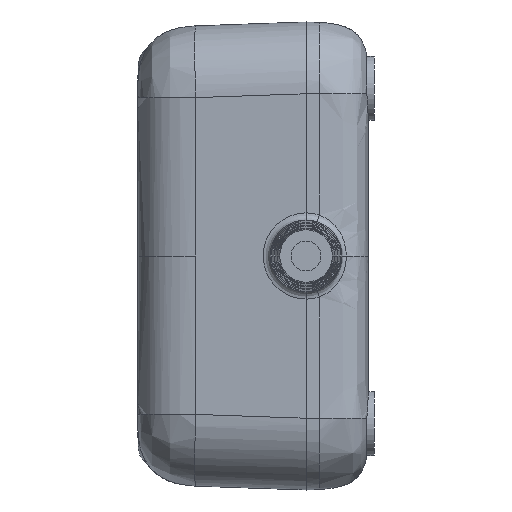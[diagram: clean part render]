
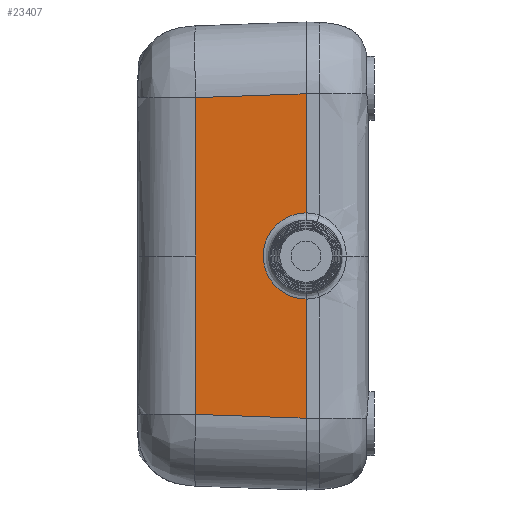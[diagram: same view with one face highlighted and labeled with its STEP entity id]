
A CAD part, left-side view. The second image highlights one B-rep face of the part: STEP entity #23407.
In plain terms, the highlighted planar face has unit normal (-0.999, 0.035, 0).
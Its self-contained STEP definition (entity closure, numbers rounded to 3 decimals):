
#193 = DIRECTION ( 'NONE',  ( -0.035, -0.999, 0. ) ) ;
#619 = CARTESIAN_POINT ( 'NONE',  ( -89., 0., 27.107 ) ) ;
#736 = CARTESIAN_POINT ( 'NONE',  ( -88.847, 4.37, 5.709 ) ) ;
#912 = CARTESIAN_POINT ( 'NONE',  ( -88.812, 5.396, -4.743 ) ) ;
#2734 = CARTESIAN_POINT ( 'NONE',  ( -88.783, 6.214, -3.595 ) ) ;
#2911 = CARTESIAN_POINT ( 'NONE',  ( -88.752, 7.112, -0.938 ) ) ;
#2977 = VECTOR ( 'NONE', #12018, 1000. ) ;
#3158 = VERTEX_POINT ( 'NONE', #6098 ) ;
#3617 = LINE ( 'NONE', #16855, #22817 ) ;
#3665 = AXIS2_PLACEMENT_3D ( 'NONE', #17551, #8969, #193 ) ;
#3838 = CARTESIAN_POINT ( 'NONE',  ( -88.356, 18.449, -26.463 ) ) ;
#4250 = EDGE_CURVE ( 'NONE', #7700, #9153, #3617, .T. ) ;
#4796 = LINE ( 'NONE', #619, #14696 ) ;
#5110 = ORIENTED_EDGE ( 'NONE', *, *, #18998, .T. ) ;
#5187 = CARTESIAN_POINT ( 'NONE',  ( -88.875, 3.59, 6.235 ) ) ;
#5272 = CARTESIAN_POINT ( 'NONE',  ( -88.847, 4.37, -5.709 ) ) ;
#6098 = CARTESIAN_POINT ( 'NONE',  ( -89., 0., -27.107 ) ) ;
#7103 = CARTESIAN_POINT ( 'NONE',  ( -88.984, 0.471, -7.197 ) ) ;
#7203 = CARTESIAN_POINT ( 'NONE',  ( -89., 0., -7.2 ) ) ;
#7294 = CARTESIAN_POINT ( 'NONE',  ( -88.835, 4.732, -5.41 ) ) ;
#7375 = CARTESIAN_POINT ( 'NONE',  ( -88.783, 6.214, 3.596 ) ) ;
#7475 = CARTESIAN_POINT ( 'NONE',  ( -88.752, 7.112, 0.938 ) ) ;
#7644 = DIRECTION ( 'NONE',  ( 0.035, 0.999, -0.035 ) ) ;
#7700 = VERTEX_POINT ( 'NONE', #19457 ) ;
#8366 = DIRECTION ( 'NONE',  ( 0., 0., -1. ) ) ;
#8428 = LINE ( 'NONE', #16042, #2977 ) ;
#8550 = DIRECTION ( 'NONE',  ( 0., 0., 1. ) ) ;
#8969 = DIRECTION ( 'NONE',  ( -0.999, 0.035, 0. ) ) ;
#9153 = VERTEX_POINT ( 'NONE', #3838 ) ;
#9487 = CARTESIAN_POINT ( 'NONE',  ( -88.919, 2.309, 6.822 ) ) ;
#9717 = CARTESIAN_POINT ( 'NONE',  ( -89., 0., -39.1 ) ) ;
#9868 = VERTEX_POINT ( 'NONE', #16195 ) ;
#10554 = EDGE_LOOP ( 'NONE', ( #17383, #22885, #20435, #5110, #22939, #21768, #18197 ) ) ;
#10977 = PLANE ( 'NONE',  #3665 ) ;
#11392 = CARTESIAN_POINT ( 'NONE',  ( -89., 0., 7.2 ) ) ;
#11423 = CARTESIAN_POINT ( 'NONE',  ( -88.356, 18.449, 26.463 ) ) ;
#11579 = CARTESIAN_POINT ( 'NONE',  ( -88.889, 3.176, -6.458 ) ) ;
#11678 = CARTESIAN_POINT ( 'NONE',  ( -88.935, 1.86, 6.96 ) ) ;
#11804 = DIRECTION ( 'NONE',  ( 0., 0., 1. ) ) ;
#12018 = DIRECTION ( 'NONE',  ( 0., 0., -1. ) ) ;
#12075 = EDGE_CURVE ( 'NONE', #9868, #17111, #4796, .T. ) ;
#12266 = VERTEX_POINT ( 'NONE', #24032 ) ;
#13581 = LINE ( 'NONE', #9717, #22872 ) ;
#13697 = CARTESIAN_POINT ( 'NONE',  ( -88.812, 5.395, 4.743 ) ) ;
#13726 = EDGE_CURVE ( 'NONE', #12266, #18792, #21964, .T. ) ;
#13784 = CARTESIAN_POINT ( 'NONE',  ( -88.758, 6.929, -1.861 ) ) ;
#13872 = CARTESIAN_POINT ( 'NONE',  ( -88.984, 0.472, 7.197 ) ) ;
#14678 = EDGE_CURVE ( 'NONE', #18792, #9868, #13581, .T. ) ;
#14696 = VECTOR ( 'NONE', #7644, 1000. ) ;
#14984 = DIRECTION ( 'NONE',  ( -0.035, -0.999, -0.035 ) ) ;
#15158 = VECTOR ( 'NONE', #14984, 1000. ) ;
#15794 = CARTESIAN_POINT ( 'NONE',  ( -88.758, 6.929, 1.861 ) ) ;
#15881 = CARTESIAN_POINT ( 'NONE',  ( -88.75, 7.158, 0.47 ) ) ;
#15978 = CARTESIAN_POINT ( 'NONE',  ( -88.801, 5.693, -4.379 ) ) ;
#16042 = CARTESIAN_POINT ( 'NONE',  ( -88.356, 18.449, -27.433 ) ) ;
#16166 = CARTESIAN_POINT ( 'NONE',  ( -88.875, 3.59, -6.235 ) ) ;
#16195 = CARTESIAN_POINT ( 'NONE',  ( -89., 0., 27.107 ) ) ;
#16855 = CARTESIAN_POINT ( 'NONE',  ( -88.356, 18.449, -27.433 ) ) ;
#17111 = VERTEX_POINT ( 'NONE', #11423 ) ;
#17383 = ORIENTED_EDGE ( 'NONE', *, *, #12075, .T. ) ;
#17551 = CARTESIAN_POINT ( 'NONE',  ( -88.356, 18.449, -27.433 ) ) ;
#17690 = FACE_OUTER_BOUND ( 'NONE', #10554, .T. ) ;
#18169 = CARTESIAN_POINT ( 'NONE',  ( -88.889, 3.176, 6.458 ) ) ;
#18197 = ORIENTED_EDGE ( 'NONE', *, *, #14678, .T. ) ;
#18259 = CARTESIAN_POINT ( 'NONE',  ( -88.775, 6.435, 3.18 ) ) ;
#18792 = VERTEX_POINT ( 'NONE', #11392 ) ;
#18998 = EDGE_CURVE ( 'NONE', #9153, #3158, #20995, .T. ) ;
#19457 = CARTESIAN_POINT ( 'NONE',  ( -88.356, 18.449, 0. ) ) ;
#20215 = LINE ( 'NONE', #28175, #26406 ) ;
#20435 = ORIENTED_EDGE ( 'NONE', *, *, #4250, .T. ) ;
#20472 = CARTESIAN_POINT ( 'NONE',  ( -89., 0., 7.2 ) ) ;
#20568 = CARTESIAN_POINT ( 'NONE',  ( -88.75, 7.158, -0.47 ) ) ;
#20995 = LINE ( 'NONE', #26915, #15158 ) ;
#21516 = EDGE_CURVE ( 'NONE', #3158, #12266, #20215, .T. ) ;
#21768 = ORIENTED_EDGE ( 'NONE', *, *, #13726, .T. ) ;
#21964 = B_SPLINE_CURVE_WITH_KNOTS ( 'NONE', 3,
 ( #7203, #7103, #22537, #24745, #22437, #11579, #16166, #5272, #7294, #912, #15978, #2734, #26923, #26830, #13784, #2911, #20568, #15881, #7475, #15794, #22639, #18259, #7375, #26744, #13697, #24915, #736, #5187, #18169, #9487, #11678, #27028, #13872, #20472 ),
 .UNSPECIFIED., .F., .F.,
 ( 4, 2, 2, 2, 2, 2, 2, 2, 2, 2, 2, 2, 2, 2, 2, 2, 4 ),
 ( 0., 0.063, 0.125, 0.188, 0.25, 0.313, 0.375, 0.438, 0.5, 0.563, 0.625, 0.688, 0.75, 0.813, 0.875, 0.938, 1. ),
 .UNSPECIFIED. ) ;
#22437 = CARTESIAN_POINT ( 'NONE',  ( -88.919, 2.309, -6.822 ) ) ;
#22537 = CARTESIAN_POINT ( 'NONE',  ( -88.967, 0.938, -7.148 ) ) ;
#22639 = CARTESIAN_POINT ( 'NONE',  ( -88.763, 6.793, 2.311 ) ) ;
#22817 = VECTOR ( 'NONE', #8366, 1000. ) ;
#22872 = VECTOR ( 'NONE', #11804, 1000. ) ;
#22885 = ORIENTED_EDGE ( 'NONE', *, *, #24503, .T. ) ;
#22939 = ORIENTED_EDGE ( 'NONE', *, *, #21516, .T. ) ;
#23407 = ADVANCED_FACE ( 'NONE', ( #17690 ), #10977, .T. ) ;
#24032 = CARTESIAN_POINT ( 'NONE',  ( -89., 0., -7.2 ) ) ;
#24503 = EDGE_CURVE ( 'NONE', #17111, #7700, #8428, .T. ) ;
#24745 = CARTESIAN_POINT ( 'NONE',  ( -88.935, 1.86, -6.96 ) ) ;
#24915 = CARTESIAN_POINT ( 'NONE',  ( -88.835, 4.733, 5.41 ) ) ;
#26406 = VECTOR ( 'NONE', #8550, 1000. ) ;
#26744 = CARTESIAN_POINT ( 'NONE',  ( -88.801, 5.693, 4.379 ) ) ;
#26830 = CARTESIAN_POINT ( 'NONE',  ( -88.763, 6.793, -2.311 ) ) ;
#26915 = CARTESIAN_POINT ( 'NONE',  ( -88.356, 18.449, -26.463 ) ) ;
#26923 = CARTESIAN_POINT ( 'NONE',  ( -88.775, 6.435, -3.18 ) ) ;
#27028 = CARTESIAN_POINT ( 'NONE',  ( -88.967, 0.938, 7.149 ) ) ;
#28175 = CARTESIAN_POINT ( 'NONE',  ( -89., 0., -39.1 ) ) ;
